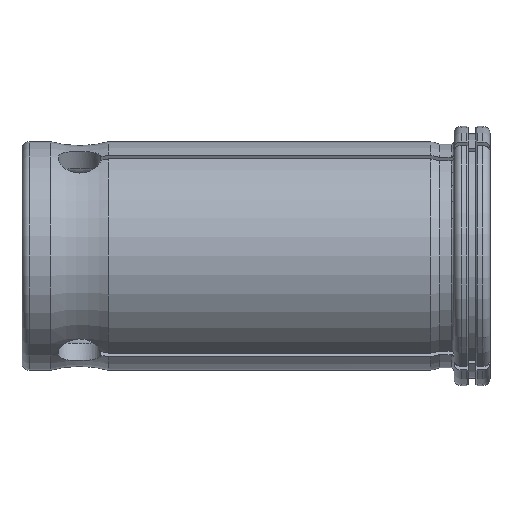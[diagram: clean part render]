
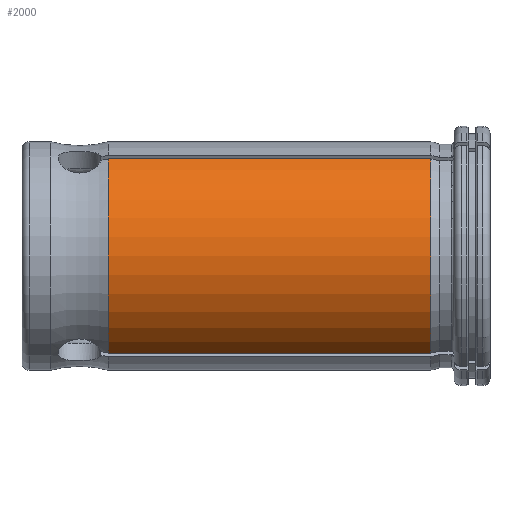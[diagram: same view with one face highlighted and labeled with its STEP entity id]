
A CAD part, front view. The second image highlights one B-rep face of the part: STEP entity #2000.
In plain terms, the highlighted cylindrical face has radius 15.875 mm (diameter 31.75 mm), a partial arc.
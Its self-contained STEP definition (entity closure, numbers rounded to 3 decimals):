
#88=DIRECTION('',(1.,0.,0.));
#89=VECTOR('',#88,44.787);
#90=CARTESIAN_POINT('',(-53.,-8.367,-13.491));
#91=LINE('',#90,#89);
#92=DIRECTION('',(1.,0.,0.));
#93=VECTOR('',#92,44.787);
#94=CARTESIAN_POINT('',(-53.,-8.367,13.491));
#95=LINE('',#94,#93);
#96=CARTESIAN_POINT('',(-8.213,0.,0.));
#97=DIRECTION('',(1.,0.,0.));
#98=DIRECTION('',(0.,-0.527,0.85));
#99=AXIS2_PLACEMENT_3D('',#96,#97,#98);
#1097=CARTESIAN_POINT('',(-8.213,-8.367,
-13.491));
#1099=CARTESIAN_POINT('',(-8.213,-8.367,
13.491));
#1318=CARTESIAN_POINT('',(-53.,0.,0.));
#1319=DIRECTION('',(-1.,0.,0.));
#1320=DIRECTION('',(0.,-0.527,-0.85));
#1321=AXIS2_PLACEMENT_3D('',#1318,#1319,#1320);
#1723=VERTEX_POINT('',#1099);
#1725=CARTESIAN_POINT('',(-53.,-8.367,13.491));
#1726=VERTEX_POINT('',#1725);
#1797=VERTEX_POINT('',#1097);
#1800=CARTESIAN_POINT('',(-53.,-8.367,-13.491));
#1801=VERTEX_POINT('',#1800);
#1985=CARTESIAN_POINT('',(-68.25,0.,0.));
#1986=DIRECTION('',(1.,0.,0.));
#1987=DIRECTION('',(0.,0.,1.));
#1988=AXIS2_PLACEMENT_3D('',#1985,#1986,#1987);
#1989=CYLINDRICAL_SURFACE('',#1988,15.875);
#1991=ORIENTED_EDGE('',*,*,#1990,.F.);
#1993=ORIENTED_EDGE('',*,*,#1992,.T.);
#1995=ORIENTED_EDGE('',*,*,#1994,.T.);
#1997=ORIENTED_EDGE('',*,*,#1996,.T.);
#1998=EDGE_LOOP('',(#1991,#1993,#1995,#1997));
#1999=FACE_OUTER_BOUND('',#1998,.F.);
#2000=ADVANCED_FACE('',(#1999),#1989,.T.);
#100=CIRCLE('',#99,15.875);
#1322=CIRCLE('',#1321,15.875);
#1990=EDGE_CURVE('',#1801,#1797,#91,.T.);
#1992=EDGE_CURVE('',#1801,#1726,#1322,.T.);
#1994=EDGE_CURVE('',#1726,#1723,#95,.T.);
#1996=EDGE_CURVE('',#1723,#1797,#100,.T.);
